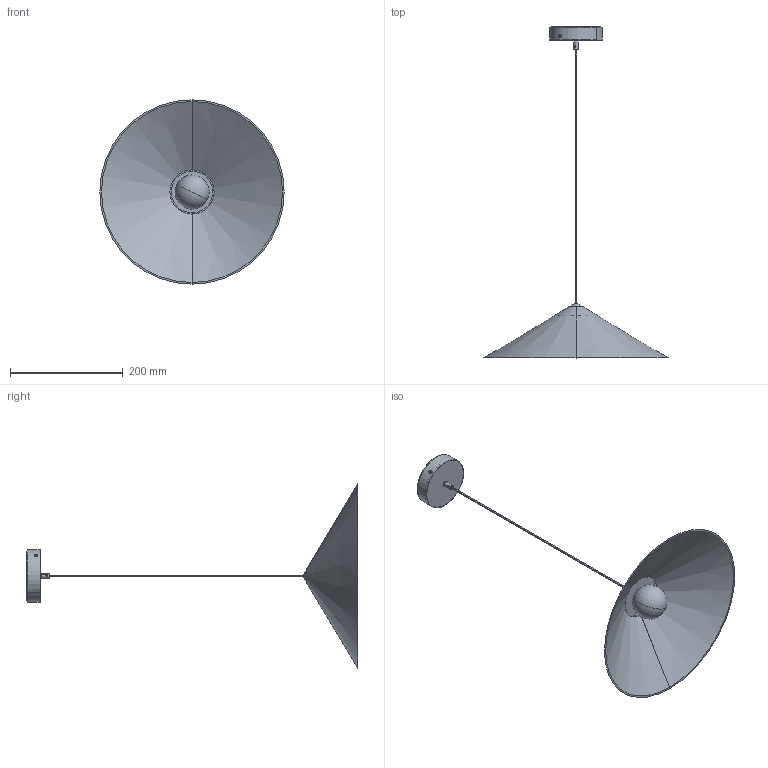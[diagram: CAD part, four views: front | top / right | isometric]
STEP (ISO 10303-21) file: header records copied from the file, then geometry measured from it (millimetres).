
FILE_DESCRIPTION (( 'STEP AP214' ), '1' );
FILE_NAME ('BELL_330_Sup_STEP.STEP', '2024-05-29T14:17:23', ( '' ), ( '' ), 'SwSTEP 2.0', 'SolidWorks 2024', '' );
FILE_SCHEMA (( 'AUTOMOTIVE_DESIGN' ));
Length unit declared in the file: millimetre
Products named in the file (1): BELL_330_Sup_STEP
Bounding box: 327 x 588.7 x 327 mm (x, y, z)
Volume: 203832.2 mm3; surface area: 280214.5 mm2
Topology: 11 solids, 11 shells, 401 faces, 962 edges, 609 vertices
Faces by surface type: cylinder 137, plane 134, torus 46, cone 40, bspline 40, sphere 4
Entity records: 18012 total; most frequent: CARTESIAN_POINT 8889, ORIENTED_EDGE 1904, DIRECTION 1822, EDGE_CURVE 952, AXIS2_PLACEMENT_3D 707, VERTEX_POINT 603, EDGE_LOOP 471, VECTOR 408
